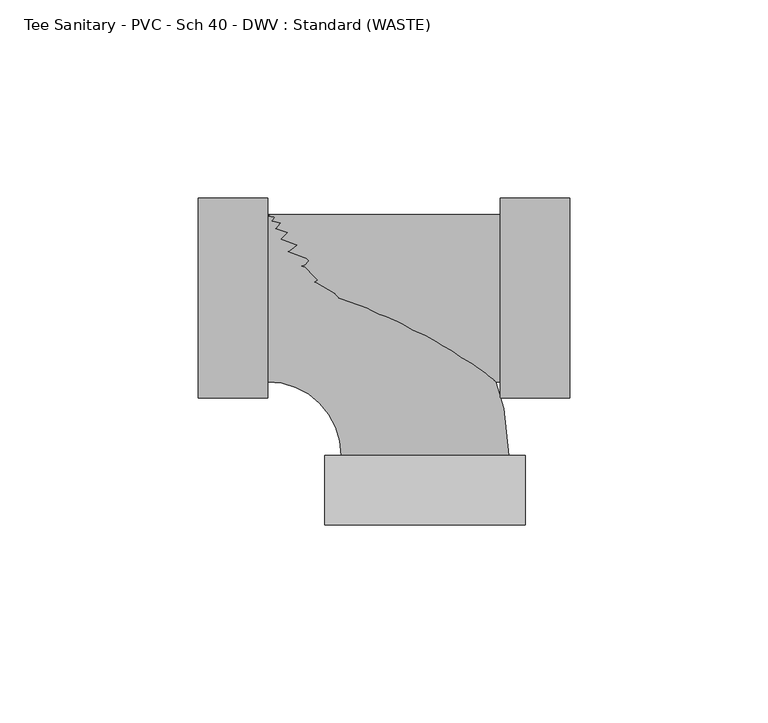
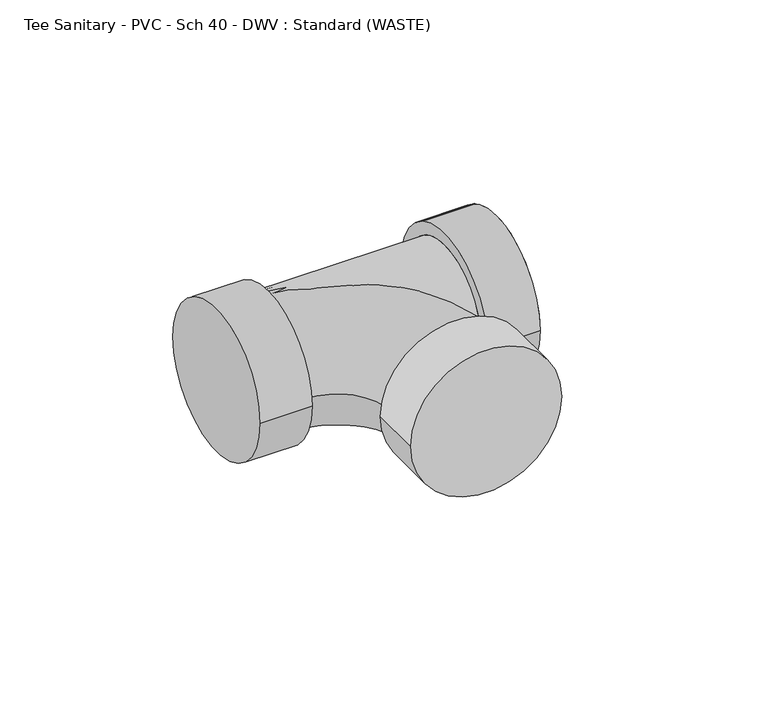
"""IFC4 building model written with IfcOpenShell, lengths in millimetres: pipe fitting geometry, Tee Sanitary - PVC - Sch 40 - DWV : Standard (WASTE)."""

from ifc_helpers import new_model, si_unit, point, frame, origin, place, context, project, spatial, circle_curve, ellipse_curve, trimmed, source, transform, mapped, element, save
from ifc_brep_helpers import plane_surface, cylinder_surface, revolved_surface, advanced_brep


def tee_sanitary_pvc_sch_40_dwv_standard_waste_7af846eb(model_context):
    return source(origin(), model_context, "Body", "AdvancedBrep", [
        advanced_brep(
        [(-39.7002, -21.082, 0.0), (-39.7002, 21.082, 0.0), (-21.082, -39.7002, 0.0), (21.082, -39.7002, 0.0), (25.2349, -57.15, 0.0), (-25.2349, -57.15, 0.0), (25.2349, -39.7002, 0.0), (-25.2349, -39.7002, 0.0)],
        [
            (0, 1, circle_curve(frame((-39.7002, 0.0, 0.0), z_axis=(-1.0, 0.0, 0.0), x_axis=(0.0, 1.0, 0.0)), 21.082)),
            (1, 0, circle_curve(frame((-39.7002, 0.0, 0.0), z_axis=(-1.0, 0.0, 0.0), x_axis=(0.0, 1.0, 0.0)), 21.082)),
            (0, 2, circle_curve(frame((-39.7002, -39.7002, 0.0), z_axis=(0.0, 0.0, -1.0), x_axis=(0.0, 1.0, 0.0)), 18.6182)),
            (2, 3, circle_curve(frame((0.0, -39.7002, 0.0), z_axis=(-1.5948410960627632e-12, 1.0, 0.0), x_axis=(1.0, 1.5948410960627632e-12, 0.0)), 21.082)),
            (3, 1, circle_curve(frame((-39.7002, -39.7002, 0.0), z_axis=(0.0, 0.0, 1.0), x_axis=(0.0, 1.0, 0.0)), 60.7822)),
            (3, 2, circle_curve(frame((0.0, -39.7002, 0.0), z_axis=(0.0, 1.0, 0.0), x_axis=(1.0, 0.0, 0.0)), 21.082)),
            (4, 5, circle_curve(frame((0.0, -57.15, 0.0), z_axis=(0.0, -1.0, 0.0), x_axis=(-1.0, 0.0, 0.0)), 25.2349)),
            (5, 4, circle_curve(frame((0.0, -57.15, 0.0), z_axis=(0.0, -1.0, 0.0), x_axis=(-1.0, 0.0, 0.0)), 25.2349)),
            (6, 7, circle_curve(frame((0.0, -39.7002, 0.0), z_axis=(0.0, 1.0, 0.0), x_axis=(-1.0, 0.0, 0.0)), 25.2349)),
            (7, 6, circle_curve(frame((0.0, -39.7002, 0.0), z_axis=(0.0, 1.0, 0.0), x_axis=(-1.0, 0.0, 0.0)), 25.2349)),
            (4, 6),
            (7, 5),
        ],
        [
            plane_surface(frame((-39.7002, 0.0, 0.0), z_axis=(-1.0, 0.0, 0.0), x_axis=(0.0, 0.0, 1.0))),
            revolved_surface(trimmed(ellipse_curve(frame((-39.7002, 0.0, 0.0), z_axis=(-1.0, 0.0, 0.0), x_axis=(0.0, 1.0, 0.0)), 21.082, 21.082), [point((-39.7002, -21.082, 0.0))], [point((-39.7002, 21.082, 0.0))], True, "CARTESIAN"), (-39.7002, -39.7002, 0.0), (0.0, 0.0, -1.0)),
            revolved_surface(trimmed(ellipse_curve(frame((-39.7002, 0.0, 0.0), z_axis=(-1.0, 0.0, 0.0), x_axis=(0.0, 1.0, 0.0)), 21.082, 21.082), [point((-39.7002, 21.082, 0.0))], [point((-39.7002, -21.082, 0.0))], True, "CARTESIAN"), (-39.7002, -39.7002, 0.0), (0.0, 0.0, -1.0)),
            plane_surface(frame((0.0, -57.15, 0.0), z_axis=(0.0, -1.0, 0.0), x_axis=(0.0, 0.0, 1.0))),
            plane_surface(frame((0.0, -39.7002, 0.0), z_axis=(0.0, 1.0, 0.0), x_axis=(0.0, 0.0, 1.0))),
            cylinder_surface(frame((0.0, -57.15, 0.0), z_axis=(0.0, -1.0, 0.0), x_axis=(-1.0, 0.0, 0.0)), 25.2349),
        ],
        [
            (0, [[1, 2]]),
            (1, [[-1, 3, 4, 5]]),
            (2, [[-2, -5, 6, -3]]),
            (3, [[7, 8]]),
            (4, [[9, 10], [-4, -6]]),
            (5, [[-7, 11, -10, 12]]),
            (5, [[-8, -12, -9, -11]]),
        ],
    ),
        advanced_brep(
        [(25.2349, -57.15, 0.0), (-25.2349, -57.15, 0.0), (-39.7002, -21.082, 0.0), (-39.7002, 21.082, 0.0), (-21.082, -39.7002, 0.0), (21.082, -39.7002, 0.0), (25.2349, -39.7002, 0.0), (-25.2349, -39.7002, 0.0)],
        [
            (0, 1, circle_curve(frame((0.0, -57.15, 0.0), z_axis=(0.0, -1.0, 0.0), x_axis=(-1.0, 0.0, 0.0)), 25.2349)),
            (1, 0, circle_curve(frame((0.0, -57.15, 0.0), z_axis=(0.0, -1.0, 0.0), x_axis=(-1.0, 0.0, 0.0)), 25.2349)),
            (2, 3, circle_curve(frame((-39.7002, 0.0, 0.0), z_axis=(-1.0, 0.0, 0.0), x_axis=(0.0, 1.0, 0.0)), 21.082)),
            (3, 2, circle_curve(frame((-39.7002, 0.0, 0.0), z_axis=(-1.0, 0.0, 0.0), x_axis=(0.0, 1.0, 0.0)), 21.082)),
            (2, 4, circle_curve(frame((-39.7002, -39.7002, 0.0), z_axis=(0.0, 0.0, -1.0), x_axis=(0.0, 1.0, 0.0)), 18.6182)),
            (4, 5, circle_curve(frame((0.0, -39.7002, 0.0), z_axis=(0.0, 1.0, 0.0), x_axis=(1.0, 0.0, 0.0)), 21.082)),
            (5, 3, circle_curve(frame((-39.7002, -39.7002, 0.0), z_axis=(0.0, 0.0, 1.0), x_axis=(0.0, 1.0, 0.0)), 60.7822)),
            (5, 4, circle_curve(frame((0.0, -39.7002, 0.0), z_axis=(0.0, 1.0, 0.0), x_axis=(1.0, 0.0, 0.0)), 21.082)),
            (6, 7, circle_curve(frame((0.0, -39.7002, 0.0), z_axis=(0.0, 1.0, 0.0), x_axis=(-1.0, 0.0, 0.0)), 25.2349)),
            (7, 6, circle_curve(frame((0.0, -39.7002, 0.0), z_axis=(0.0, 1.0, 0.0), x_axis=(-1.0, 0.0, 0.0)), 25.2349)),
            (0, 6),
            (7, 1),
        ],
        [
            plane_surface(frame((0.0, -57.15, 0.0), z_axis=(0.0, -1.0, 0.0), x_axis=(0.0, 0.0, 1.0))),
            plane_surface(frame((-39.7002, 0.0, 0.0), z_axis=(-1.0, 0.0, 0.0), x_axis=(0.0, 0.0, 1.0))),
            revolved_surface(trimmed(ellipse_curve(frame((-39.7002, 0.0, 0.0), z_axis=(-1.0, 0.0, 0.0), x_axis=(0.0, 1.0, 0.0)), 21.082, 21.082), [point((-39.7002, -21.082, 0.0))], [point((-39.7002, 21.082, 0.0))], True, "CARTESIAN"), (-39.7002, -39.7002, 0.0), (0.0, 0.0, -1.0)),
            revolved_surface(trimmed(ellipse_curve(frame((-39.7002, 0.0, 0.0), z_axis=(-1.0, 0.0, 0.0), x_axis=(0.0, 1.0, 0.0)), 21.082, 21.082), [point((-39.7002, 21.082, 0.0))], [point((-39.7002, -21.082, 0.0))], True, "CARTESIAN"), (-39.7002, -39.7002, 0.0), (0.0, 0.0, -1.0)),
            plane_surface(frame((0.0, -39.7002, 0.0), z_axis=(0.0, 1.0, 0.0), x_axis=(0.0, 0.0, 1.0))),
            cylinder_surface(frame((0.0, -57.15, 0.0), z_axis=(0.0, -1.0, 0.0), x_axis=(-1.0, 0.0, 0.0)), 25.2349),
        ],
        [
            (0, [[1, 2]]),
            (1, [[3, 4]]),
            (2, [[-3, 5, 6, 7]]),
            (3, [[-4, -7, 8, -5]]),
            (4, [[9, 10], [-6, -8]]),
            (5, [[-1, 11, -10, 12]]),
            (5, [[-2, -12, -9, -11]]),
        ],
    ),
        advanced_brep(
        [(-39.7002, -21.082, 0.0), (19.05, -21.082, 0.0), (19.05, 21.082, 0.0), (-39.7002, 21.082, 0.0), (19.05, -25.2349, 0.0), (19.05, 25.2349, 0.0), (36.4998, -25.2349, 0.0), (36.4998, 25.2349, 0.0), (-57.15, -25.2349, 0.0), (-57.15, 25.2349, 0.0), (-39.7002, -25.2349, 0.0), (-39.7002, 25.2349, 0.0)],
        [
            (0, 1),
            (1, 2, circle_curve(frame((19.05, 0.0, 0.0), z_axis=(-1.0, 0.0, 0.0), x_axis=(0.0, 1.0, 0.0)), 21.082)),
            (2, 3),
            (3, 0, circle_curve(frame((-39.7002, 0.0, 0.0), z_axis=(1.0, 0.0, 0.0), x_axis=(0.0, 1.0, 0.0)), 21.082)),
            (0, 3, circle_curve(frame((-39.7002, 0.0, 0.0), z_axis=(1.0, 0.0, 0.0), x_axis=(0.0, 1.0, 0.0)), 21.082)),
            (2, 1, circle_curve(frame((19.05, 0.0, 0.0), z_axis=(-1.0, 0.0, 0.0), x_axis=(0.0, 1.0, 0.0)), 21.082)),
            (4, 5, circle_curve(frame((19.05, 0.0, 0.0), z_axis=(-1.0, 0.0, 0.0), x_axis=(0.0, 1.0, 0.0)), 25.2349)),
            (5, 4, circle_curve(frame((19.05, 0.0, 0.0), z_axis=(-1.0, 0.0, 0.0), x_axis=(0.0, 1.0, 0.0)), 25.2349)),
            (6, 7, circle_curve(frame((36.4998, 0.0, 0.0), z_axis=(1.0, 0.0, 0.0), x_axis=(0.0, 1.0, 0.0)), 25.2349)),
            (7, 6, circle_curve(frame((36.4998, 0.0, 0.0), z_axis=(1.0, 0.0, 0.0), x_axis=(0.0, 1.0, 0.0)), 25.2349)),
            (4, 6),
            (7, 5),
            (8, 9, circle_curve(frame((-57.15, 0.0, 0.0), z_axis=(-1.0, 0.0, 0.0), x_axis=(0.0, 1.0, 0.0)), 25.2349)),
            (9, 8, circle_curve(frame((-57.15, 0.0, 0.0), z_axis=(-1.0, 0.0, 0.0), x_axis=(0.0, 1.0, 0.0)), 25.2349)),
            (10, 11, circle_curve(frame((-39.7002, 0.0, 0.0), z_axis=(1.0, 0.0, 0.0), x_axis=(0.0, 1.0, 0.0)), 25.2349)),
            (11, 10, circle_curve(frame((-39.7002, 0.0, 0.0), z_axis=(1.0, 0.0, 0.0), x_axis=(0.0, 1.0, 0.0)), 25.2349)),
            (8, 10),
            (11, 9),
        ],
        [
            cylinder_surface(frame((-39.7002, 0.0, 0.0), z_axis=(-1.0, 0.0, 0.0), x_axis=(0.0, 1.0, 0.0)), 21.082),
            plane_surface(frame((19.05, 0.0, 0.0), z_axis=(-1.0, 0.0, 0.0), x_axis=(0.0, 0.0, 1.0))),
            plane_surface(frame((36.4998, 0.0, 0.0), z_axis=(1.0, 0.0, 0.0), x_axis=(0.0, 0.0, 1.0))),
            cylinder_surface(frame((19.05, 0.0, 0.0), z_axis=(-1.0, 0.0, 0.0), x_axis=(0.0, 1.0, 0.0)), 25.2349),
            plane_surface(frame((-57.15, 0.0, 0.0), z_axis=(-1.0, 0.0, 0.0), x_axis=(0.0, 0.0, 1.0))),
            plane_surface(frame((-39.7002, 0.0, 0.0), z_axis=(1.0, 0.0, 0.0), x_axis=(0.0, 0.0, 1.0))),
            cylinder_surface(frame((-57.15, 0.0, 0.0), z_axis=(-1.0, 0.0, 0.0), x_axis=(0.0, 1.0, 0.0)), 25.2349),
        ],
        [
            (0, [[1, 2, 3, 4]]),
            (0, [[-1, 5, -3, 6]]),
            (1, [[7, 8], [-2, -6]]),
            (2, [[9, 10]]),
            (3, [[-7, 11, -10, 12]]),
            (3, [[-8, -12, -9, -11]]),
            (4, [[13, 14]]),
            (5, [[15, 16], [-4, -5]]),
            (6, [[-13, 17, -16, 18]]),
            (6, [[-14, -18, -15, -17]]),
        ],
    ),
        advanced_brep(
        [(-57.15, -25.2349, 0.0), (-57.15, 25.2349, 0.0), (-39.7002, -25.2349, 0.0), (-39.7002, 25.2349, 0.0), (-39.7002, -21.082, 0.0), (-39.7002, 21.082, 0.0), (19.05, -21.082, 0.0), (19.05, 21.082, 0.0), (36.4998, 25.2349, 0.0), (36.4998, -25.2349, 0.0), (19.05, 25.2349, 0.0), (19.05, -25.2349, 0.0)],
        [
            (0, 1, circle_curve(frame((-57.15, 0.0, 0.0), z_axis=(-1.0, 0.0, 0.0), x_axis=(0.0, 1.0, 0.0)), 25.2349)),
            (1, 0, circle_curve(frame((-57.15, 0.0, 0.0), z_axis=(-1.0, 0.0, 0.0), x_axis=(0.0, 1.0, 0.0)), 25.2349)),
            (2, 3, circle_curve(frame((-39.7002, 0.0, 0.0), z_axis=(1.0, 0.0, 0.0), x_axis=(0.0, 1.0, 0.0)), 25.2349)),
            (3, 2, circle_curve(frame((-39.7002, 0.0, 0.0), z_axis=(1.0, 0.0, 0.0), x_axis=(0.0, 1.0, 0.0)), 25.2349)),
            (4, 5, circle_curve(frame((-39.7002, 0.0, 0.0), z_axis=(-1.0, 0.0, 0.0), x_axis=(0.0, 1.0, 0.0)), 21.082)),
            (5, 4, circle_curve(frame((-39.7002, 0.0, 0.0), z_axis=(-1.0, 0.0, 0.0), x_axis=(0.0, 1.0, 0.0)), 21.082)),
            (0, 2),
            (3, 1),
            (4, 6),
            (6, 7, circle_curve(frame((19.05, 0.0, 0.0), z_axis=(-1.0, 0.0, 0.0), x_axis=(0.0, 1.0, 0.0)), 21.082)),
            (7, 5),
            (7, 6, circle_curve(frame((19.05, 0.0, 0.0), z_axis=(-1.0, 0.0, 0.0), x_axis=(0.0, 1.0, 0.0)), 21.082)),
            (8, 9, circle_curve(frame((36.4998, 0.0, 0.0), z_axis=(1.0, 0.0, 0.0), x_axis=(0.0, -1.0, 0.0)), 25.2349)),
            (9, 8, circle_curve(frame((36.4998, 0.0, 0.0), z_axis=(1.0, 0.0, 0.0), x_axis=(0.0, -1.0, 0.0)), 25.2349)),
            (10, 11, circle_curve(frame((19.05, 0.0, 0.0), z_axis=(-1.0, 0.0, 0.0), x_axis=(0.0, -1.0, 0.0)), 25.2349)),
            (11, 10, circle_curve(frame((19.05, 0.0, 0.0), z_axis=(-1.0, 0.0, 0.0), x_axis=(0.0, -1.0, 0.0)), 25.2349)),
            (8, 10),
            (11, 9),
        ],
        [
            plane_surface(frame((-57.15, 0.0, 0.0), z_axis=(-1.0, 0.0, 0.0), x_axis=(0.0, 0.0, 1.0))),
            plane_surface(frame((-39.7002, 0.0, 0.0), z_axis=(1.0, 0.0, 0.0), x_axis=(0.0, 0.0, 1.0))),
            cylinder_surface(frame((-57.15, 0.0, 0.0), z_axis=(-1.0, 0.0, 0.0), x_axis=(0.0, 1.0, 0.0)), 25.2349),
            cylinder_surface(frame((-39.7002, 0.0, 0.0), z_axis=(-1.0, 0.0, 0.0), x_axis=(0.0, 1.0, 0.0)), 21.082),
            plane_surface(frame((36.4998, 0.0, 0.0), z_axis=(1.0, 0.0, 0.0), x_axis=(0.0, 0.0, 1.0))),
            plane_surface(frame((19.05, 0.0, 0.0), z_axis=(-1.0, 0.0, 0.0), x_axis=(0.0, 0.0, 1.0))),
            cylinder_surface(frame((36.4998, 0.0, 0.0), z_axis=(1.0, 0.0, 0.0), x_axis=(0.0, -1.0, 0.0)), 25.2349),
        ],
        [
            (0, [[1, 2]]),
            (1, [[3, 4], [5, 6]]),
            (2, [[-1, 7, -4, 8]]),
            (2, [[-2, -8, -3, -7]]),
            (3, [[9, 10, 11, -5]]),
            (3, [[-9, -6, -11, 12]]),
            (4, [[13, 14]]),
            (5, [[15, 16], [-10, -12]]),
            (6, [[-13, 17, -16, 18]]),
            (6, [[-14, -18, -15, -17]]),
        ],
    ),
    ])


if __name__ == "__main__":
    model = new_model("IFC4")
    model_context = context("Model", 3, world=origin())
    ifc_project = project(units=[si_unit("LENGTHUNIT", "METRE", prefix="MILLI")], contexts=[model_context])
    site = spatial("IfcSite", under=ifc_project)
    building = spatial("IfcBuilding", under=site)
    placement = place(None, origin())
    tee_sanitary_pvc_sch_40_dwv_standard_waste_shape = tee_sanitary_pvc_sch_40_dwv_standard_waste_7af846eb(model_context)
    element("IfcPipeFitting", 1, ObjectType="Tee Sanitary - PVC - Sch 40 - DWV : Standard (WASTE)", at=placement, inside=building, context=model_context, shape_type="MappedRepresentation", body=[
        mapped(tee_sanitary_pvc_sch_40_dwv_standard_waste_shape, transform((0.0, 0.0, 0.0), x_axis=(1.0, 0.0, 0.0), y_axis=(0.0, 1.0, 0.0), z_axis=(0.0, 0.0, 1.0))),
    ])
    save(model, "model.ifc")
